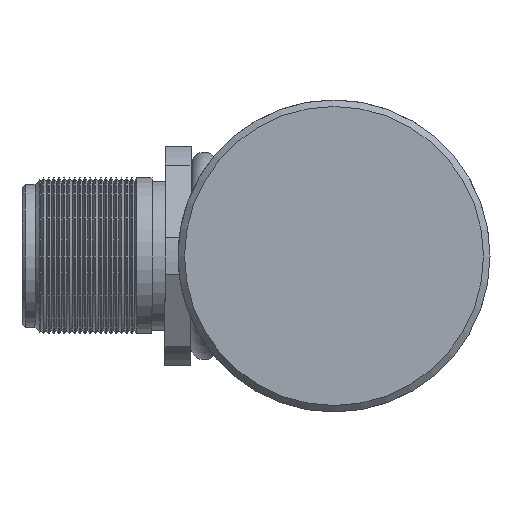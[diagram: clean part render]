
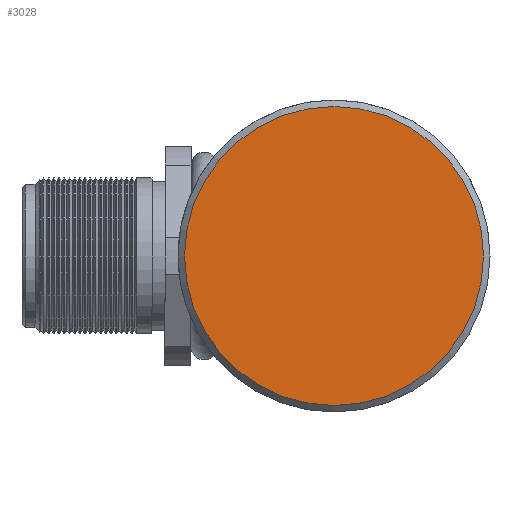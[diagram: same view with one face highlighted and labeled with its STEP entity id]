
A CAD part, left-side view. The second image highlights one B-rep face of the part: STEP entity #3028.
In plain terms, the highlighted planar face has unit normal (-1, 0, 0).
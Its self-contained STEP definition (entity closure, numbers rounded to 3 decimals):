
#308=PLANE('',#3286);
#632=VERTEX_POINT('',#4465);
#905=CIRCLE('',#3285,11.5);
#1107=EDGE_CURVE('',#632,#632,#905,.T.);
#1546=ORIENTED_EDGE('',*,*,#1107,.T.);
#2317=EDGE_LOOP('',(#1546));
#2677=FACE_BOUND('',#2317,.T.);
#3028=ADVANCED_FACE('',(#2677),#308,.F.);
#3285=AXIS2_PLACEMENT_3D('',#4464,#3696,#3697);
#3286=AXIS2_PLACEMENT_3D('',#4466,#3698,$);
#3696=DIRECTION('',(-1.,0.,0.));
#3697=DIRECTION('',(0.,0.,-11.5));
#3698=DIRECTION('',(1.,0.,0.));
#4464=CARTESIAN_POINT('',(-54.,0.,0.));
#4465=CARTESIAN_POINT('',(-54.,0.,-11.5));
#4466=CARTESIAN_POINT('',(-54.,0.,0.));
